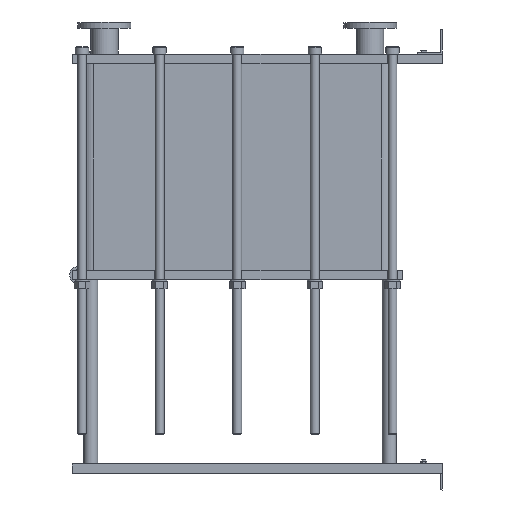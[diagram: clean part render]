
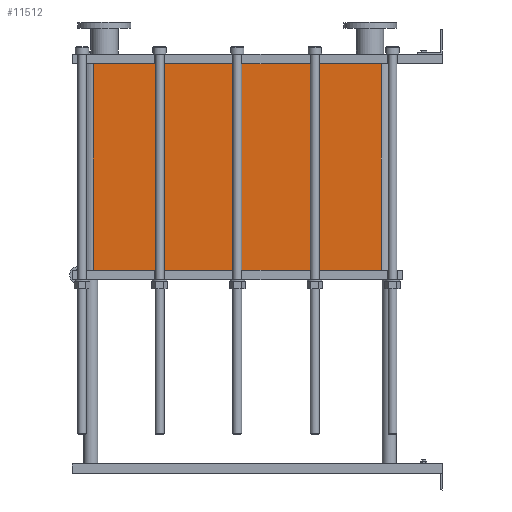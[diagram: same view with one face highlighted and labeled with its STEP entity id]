
A CAD part, left-side view. The second image highlights one B-rep face of the part: STEP entity #11512.
In plain terms, the highlighted planar face has unit normal (-1, 0, 0).
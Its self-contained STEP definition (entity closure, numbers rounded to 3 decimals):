
#1129=LINE('',#23232,#2102);
#1130=LINE('',#23236,#2103);
#1131=LINE('',#23238,#2104);
#1132=LINE('',#23239,#2105);
#2102=VECTOR('',#15887,10.);
#2103=VECTOR('',#15892,10.);
#2104=VECTOR('',#15893,10.);
#2105=VECTOR('',#15894,10.);
#3267=FACE_OUTER_BOUND('',#4093,.T.);
#4093=EDGE_LOOP('',(#10103,#10104,#10105,#10106));
#5642=VERTEX_POINT('',#23229);
#5643=VERTEX_POINT('',#23231);
#5644=VERTEX_POINT('',#23235);
#5645=VERTEX_POINT('',#23237);
#7159=EDGE_CURVE('',#5643,#5642,#1129,.T.);
#7161=EDGE_CURVE('',#5642,#5644,#1130,.T.);
#7162=EDGE_CURVE('',#5645,#5644,#1131,.T.);
#7163=EDGE_CURVE('',#5645,#5643,#1132,.T.);
#10103=ORIENTED_EDGE('',*,*,#7161,.T.);
#10104=ORIENTED_EDGE('',*,*,#7162,.F.);
#10105=ORIENTED_EDGE('',*,*,#7163,.T.);
#10106=ORIENTED_EDGE('',*,*,#7159,.T.);
#10857=PLANE('',#12751);
#11512=ADVANCED_FACE('',(#3267),#10857,.T.);
#12751=AXIS2_PLACEMENT_3D('',#23234,#15890,#15891);
#15887=DIRECTION('',(0.,0.,-1.));
#15890=DIRECTION('center_axis',(-1.,0.,0.));
#15891=DIRECTION('ref_axis',(0.,1.,0.));
#15892=DIRECTION('',(0.,-1.,0.));
#15893=DIRECTION('',(0.,0.,-1.));
#15894=DIRECTION('',(0.,1.,0.));
#23229=CARTESIAN_POINT('',(-200.,1414.,-834.9));
#23231=CARTESIAN_POINT('',(-200.,1414.,0.));
#23232=CARTESIAN_POINT('',(-200.,1414.,0.));
#23234=CARTESIAN_POINT('Origin',(-200.,248.,0.));
#23235=CARTESIAN_POINT('',(-200.,248.,-834.9));
#23236=CARTESIAN_POINT('',(-200.,539.5,-834.9));
#23237=CARTESIAN_POINT('',(-200.,248.,0.));
#23238=CARTESIAN_POINT('',(-200.,248.,0.));
#23239=CARTESIAN_POINT('',(-200.,248.,0.));
